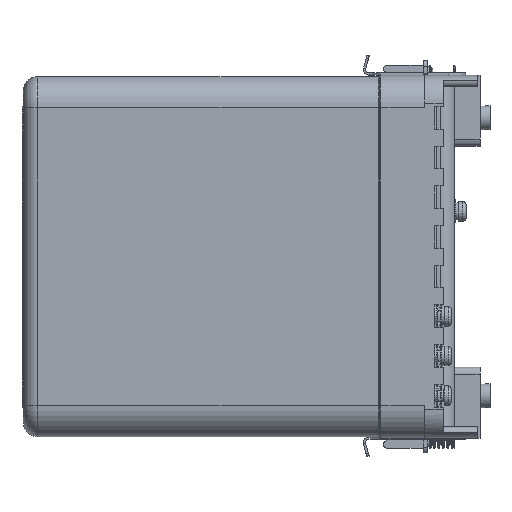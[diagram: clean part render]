
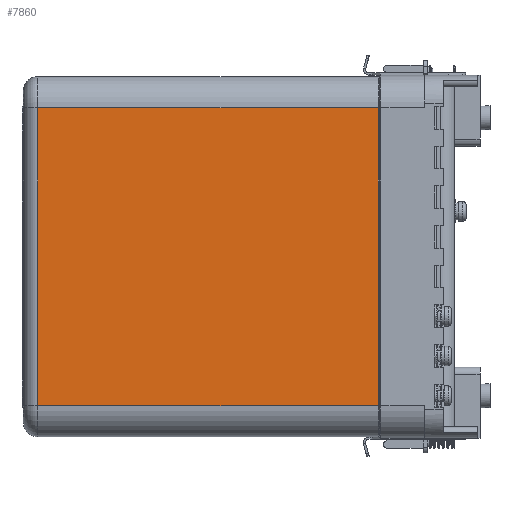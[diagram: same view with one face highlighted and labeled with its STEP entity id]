
A CAD part, left-side view. The second image highlights one B-rep face of the part: STEP entity #7860.
In plain terms, the highlighted planar face has unit normal (-1, 0, 0).
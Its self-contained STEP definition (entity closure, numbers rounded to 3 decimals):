
#7860=ADVANCED_FACE('',(#21800),#21802,.T.);
#21800=FACE_BOUND('',#21801,.T.);
#21801=EDGE_LOOP('',(#32902,#32903,#32904,#32905));
#21802=PLANE('',#21803);
#21803=AXIS2_PLACEMENT_3D('',#21804,#21805,#21806);
#21804=CARTESIAN_POINT('',(-56.5,19.5,-52.5));
#21805=DIRECTION('',(-1.,0.,0.));
#21806=DIRECTION('',(0.,0.,1.));
#32902=ORIENTED_EDGE('',*,*,#36827,.T.);
#32903=ORIENTED_EDGE('',*,*,#36570,.F.);
#32904=ORIENTED_EDGE('',*,*,#36655,.F.);
#32905=ORIENTED_EDGE('',*,*,#36654,.T.);
#36570=EDGE_CURVE('',#41031,#41220,#41222,.T.);
#36654=EDGE_CURVE('',#40900,#41356,#41358,.T.);
#36655=EDGE_CURVE('',#40900,#41031,#41359,.F.);
#36827=EDGE_CURVE('',#41356,#41220,#41651,.F.);
#40900=VERTEX_POINT('',#52395);
#41031=VERTEX_POINT('',#52791);
#41220=VERTEX_POINT('',#53458);
#41222=LINE('',#53463,#53464);
#41356=VERTEX_POINT('',#53813);
#41358=LINE('',#53818,#53819);
#41359=LINE('',#53821,#53822);
#41651=LINE('',#54881,#54882);
#52395=CARTESIAN_POINT('',(-56.5,35.866,52.5));
#52791=CARTESIAN_POINT('',(-56.5,35.866,-52.5));
#53458=CARTESIAN_POINT('',(-56.5,156.,-52.5));
#53463=CARTESIAN_POINT('',(-56.5,35.866,-52.5));
#53464=VECTOR('',#53465,1.);
#53465=DIRECTION('',(0.,1.,0.));
#53813=CARTESIAN_POINT('',(-56.5,156.,52.5));
#53818=CARTESIAN_POINT('',(-56.5,35.866,52.5));
#53819=VECTOR('',#53820,1.);
#53820=DIRECTION('',(0.,1.,0.));
#53821=CARTESIAN_POINT('',(-56.5,35.866,-52.5));
#53822=VECTOR('',#53823,1.);
#53823=DIRECTION('',(0.,0.,1.));
#54881=CARTESIAN_POINT('',(-56.5,156.,-52.5));
#54882=VECTOR('',#54883,1.);
#54883=DIRECTION('',(0.,0.,1.));
